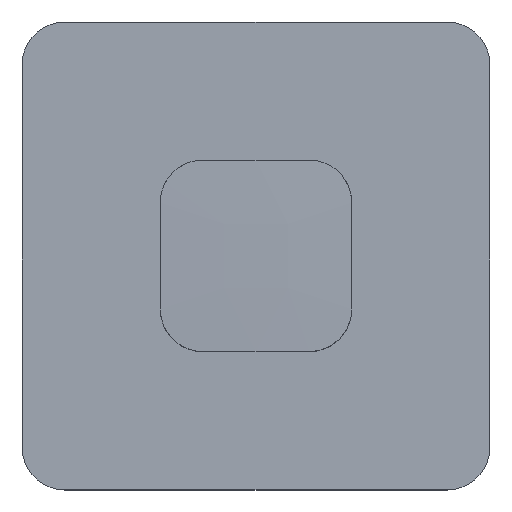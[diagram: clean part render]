
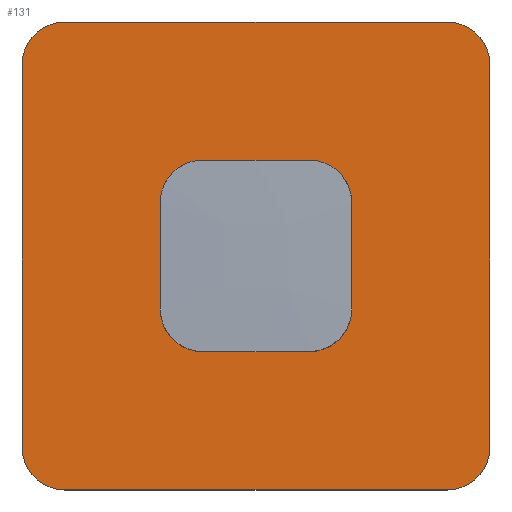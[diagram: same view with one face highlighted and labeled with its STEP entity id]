
A CAD part, top view. The second image highlights one B-rep face of the part: STEP entity #131.
In plain terms, the highlighted planar face has unit normal (0, 0, 1).
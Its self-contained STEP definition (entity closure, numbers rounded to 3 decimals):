
#3 = VERTEX_POINT ( 'NONE', #181 ) ;
#10 = EDGE_CURVE ( 'NONE', #851, #363, #27, .T. ) ;
#16 = EDGE_CURVE ( 'NONE', #749, #446, #501, .T. ) ;
#17 = CARTESIAN_POINT ( 'NONE',  ( -45., -55., 2. ) ) ;
#22 = EDGE_CURVE ( 'NONE', #956, #984, #502, .T. ) ;
#27 = LINE ( 'NONE', #17, #670 ) ;
#29 = DIRECTION ( 'NONE',  ( -1., 0., 0. ) ) ;
#48 = CIRCLE ( 'NONE', #347, 10. ) ;
#51 = VECTOR ( 'NONE', #420, 1000. ) ;
#70 = DIRECTION ( 'NONE',  ( 1., 0., 0. ) ) ;
#80 = ORIENTED_EDGE ( 'NONE', *, *, #792, .F. ) ;
#81 = CARTESIAN_POINT ( 'NONE',  ( 22.5, 12.5, 2. ) ) ;
#97 = CARTESIAN_POINT ( 'NONE',  ( 45., 45., 2. ) ) ;
#98 = VECTOR ( 'NONE', #992, 1000. ) ;
#101 = VERTEX_POINT ( 'NONE', #781 ) ;
#104 = LINE ( 'NONE', #174, #51 ) ;
#108 = CARTESIAN_POINT ( 'NONE',  ( -45., -55., 2. ) ) ;
#111 = CARTESIAN_POINT ( 'NONE',  ( 12.5, 12.5, 2. ) ) ;
#119 = EDGE_CURVE ( 'NONE', #1020, #749, #354, .T. ) ;
#127 = LINE ( 'NONE', #989, #856 ) ;
#131 = ADVANCED_FACE ( 'NONE', ( #202, #524 ), #374, .T. ) ;
#132 = VERTEX_POINT ( 'NONE', #232 ) ;
#137 = VERTEX_POINT ( 'NONE', #221 ) ;
#154 = DIRECTION ( 'NONE',  ( 1., 0., 0. ) ) ;
#165 = DIRECTION ( 'NONE',  ( -1., 0., 0. ) ) ;
#166 = DIRECTION ( 'NONE',  ( 0., 1., 0. ) ) ;
#173 = ORIENTED_EDGE ( 'NONE', *, *, #240, .T. ) ;
#174 = CARTESIAN_POINT ( 'NONE',  ( -22.5, 0., 2. ) ) ;
#181 = CARTESIAN_POINT ( 'NONE',  ( -45., 55., 2. ) ) ;
#189 = DIRECTION ( 'NONE',  ( 0., 0., 1. ) ) ;
#202 = FACE_BOUND ( 'NONE', #952, .T. ) ;
#204 = ORIENTED_EDGE ( 'NONE', *, *, #10, .T. ) ;
#221 = CARTESIAN_POINT ( 'NONE',  ( -22.5, -12.5, 2. ) ) ;
#227 = CIRCLE ( 'NONE', #957, 10. ) ;
#228 = ORIENTED_EDGE ( 'NONE', *, *, #710, .F. ) ;
#229 = CARTESIAN_POINT ( 'NONE',  ( 45., -45., 2. ) ) ;
#232 = CARTESIAN_POINT ( 'NONE',  ( -55., -45., 2. ) ) ;
#239 = DIRECTION ( 'NONE',  ( 1., 0., 0. ) ) ;
#240 = EDGE_CURVE ( 'NONE', #3, #101, #48, .T. ) ;
#242 = ORIENTED_EDGE ( 'NONE', *, *, #513, .F. ) ;
#243 = DIRECTION ( 'NONE',  ( 0., 0., 1. ) ) ;
#250 = DIRECTION ( 'NONE',  ( 0., 0., 1. ) ) ;
#264 = CARTESIAN_POINT ( 'NONE',  ( 45., -55., 2. ) ) ;
#307 = ORIENTED_EDGE ( 'NONE', *, *, #624, .F. ) ;
#309 = DIRECTION ( 'NONE',  ( 0., 0., 1. ) ) ;
#313 = ORIENTED_EDGE ( 'NONE', *, *, #938, .T. ) ;
#315 = CARTESIAN_POINT ( 'NONE',  ( -12.5, -22.5, 2. ) ) ;
#316 = CARTESIAN_POINT ( 'NONE',  ( 55., 45., 2. ) ) ;
#326 = VERTEX_POINT ( 'NONE', #315 ) ;
#345 = DIRECTION ( 'NONE',  ( 0., 0., 1. ) ) ;
#347 = AXIS2_PLACEMENT_3D ( 'NONE', #760, #522, #367 ) ;
#349 = EDGE_CURVE ( 'NONE', #446, #3, #127, .T. ) ;
#350 = DIRECTION ( 'NONE',  ( 0., 0., 1. ) ) ;
#354 = LINE ( 'NONE', #918, #825 ) ;
#359 = AXIS2_PLACEMENT_3D ( 'NONE', #724, #950, #406 ) ;
#363 = VERTEX_POINT ( 'NONE', #264 ) ;
#367 = DIRECTION ( 'NONE',  ( -1., 0., 0. ) ) ;
#374 = PLANE ( 'NONE',  #874 ) ;
#379 = CIRCLE ( 'NONE', #359, 10. ) ;
#401 = AXIS2_PLACEMENT_3D ( 'NONE', #97, #345, #896 ) ;
#406 = DIRECTION ( 'NONE',  ( -1., 0., 0. ) ) ;
#414 = CARTESIAN_POINT ( 'NONE',  ( 12.5, 22.5, 2. ) ) ;
#415 = LINE ( 'NONE', #500, #418 ) ;
#418 = VECTOR ( 'NONE', #687, 1000. ) ;
#420 = DIRECTION ( 'NONE',  ( 0., -1., 0. ) ) ;
#421 = ORIENTED_EDGE ( 'NONE', *, *, #834, .F. ) ;
#425 = DIRECTION ( 'NONE',  ( 1., 0., 0. ) ) ;
#440 = ORIENTED_EDGE ( 'NONE', *, *, #119, .T. ) ;
#446 = VERTEX_POINT ( 'NONE', #1019 ) ;
#454 = CARTESIAN_POINT ( 'NONE',  ( 12.5, -22.5, 2. ) ) ;
#464 = AXIS2_PLACEMENT_3D ( 'NONE', #111, #189, #425 ) ;
#468 = ORIENTED_EDGE ( 'NONE', *, *, #349, .T. ) ;
#476 = VERTEX_POINT ( 'NONE', #999 ) ;
#482 = CARTESIAN_POINT ( 'NONE',  ( 55., -45., 2. ) ) ;
#497 = DIRECTION ( 'NONE',  ( 1., 0., 0. ) ) ;
#500 = CARTESIAN_POINT ( 'NONE',  ( -18.85, -22.5, 2. ) ) ;
#501 = CIRCLE ( 'NONE', #401, 10. ) ;
#502 = LINE ( 'NONE', #827, #995 ) ;
#505 = ORIENTED_EDGE ( 'NONE', *, *, #16, .T. ) ;
#513 = EDGE_CURVE ( 'NONE', #722, #956, #858, .T. ) ;
#522 = DIRECTION ( 'NONE',  ( 0., 0., 1. ) ) ;
#524 = FACE_OUTER_BOUND ( 'NONE', #608, .T. ) ;
#531 = ORIENTED_EDGE ( 'NONE', *, *, #837, .F. ) ;
#564 = ORIENTED_EDGE ( 'NONE', *, *, #1028, .T. ) ;
#587 = LINE ( 'NONE', #594, #970 ) ;
#592 = AXIS2_PLACEMENT_3D ( 'NONE', #814, #309, #154 ) ;
#594 = CARTESIAN_POINT ( 'NONE',  ( -18.85, 22.5, 2. ) ) ;
#606 = DIRECTION ( 'NONE',  ( -1., 0., 0. ) ) ;
#608 = EDGE_LOOP ( 'NONE', ( #937, #204, #564, #440, #505, #468, #173, #313 ) ) ;
#624 = EDGE_CURVE ( 'NONE', #476, #137, #104, .T. ) ;
#652 = DIRECTION ( 'NONE',  ( 0., 0., 1. ) ) ;
#661 = ORIENTED_EDGE ( 'NONE', *, *, #22, .F. ) ;
#670 = VECTOR ( 'NONE', #497, 1000. ) ;
#687 = DIRECTION ( 'NONE',  ( 1., 0., 0. ) ) ;
#707 = LINE ( 'NONE', #770, #98 ) ;
#710 = EDGE_CURVE ( 'NONE', #326, #722, #415, .T. ) ;
#718 = DIRECTION ( 'NONE',  ( 1., 0., 0. ) ) ;
#722 = VERTEX_POINT ( 'NONE', #454 ) ;
#724 = CARTESIAN_POINT ( 'NONE',  ( -12.5, 12.5, 2. ) ) ;
#749 = VERTEX_POINT ( 'NONE', #316 ) ;
#753 = EDGE_CURVE ( 'NONE', #137, #326, #919, .T. ) ;
#756 = CARTESIAN_POINT ( 'NONE',  ( -45., -45., 2. ) ) ;
#760 = CARTESIAN_POINT ( 'NONE',  ( -45., 45., 2. ) ) ;
#770 = CARTESIAN_POINT ( 'NONE',  ( -55., 45., 2. ) ) ;
#781 = CARTESIAN_POINT ( 'NONE',  ( -55., 45., 2. ) ) ;
#788 = CARTESIAN_POINT ( 'NONE',  ( 22.5, -12.5, 2. ) ) ;
#792 = EDGE_CURVE ( 'NONE', #821, #476, #379, .T. ) ;
#814 = CARTESIAN_POINT ( 'NONE',  ( -12.5, -12.5, 2. ) ) ;
#817 = CARTESIAN_POINT ( 'NONE',  ( 12.5, -12.5, 2. ) ) ;
#820 = EDGE_CURVE ( 'NONE', #132, #851, #227, .T. ) ;
#821 = VERTEX_POINT ( 'NONE', #958 ) ;
#825 = VECTOR ( 'NONE', #988, 1000. ) ;
#827 = CARTESIAN_POINT ( 'NONE',  ( 22.5, 0., 2. ) ) ;
#834 = EDGE_CURVE ( 'NONE', #836, #821, #587, .T. ) ;
#836 = VERTEX_POINT ( 'NONE', #414 ) ;
#837 = EDGE_CURVE ( 'NONE', #984, #836, #987, .T. ) ;
#851 = VERTEX_POINT ( 'NONE', #108 ) ;
#856 = VECTOR ( 'NONE', #606, 1000. ) ;
#857 = ORIENTED_EDGE ( 'NONE', *, *, #753, .F. ) ;
#858 = CIRCLE ( 'NONE', #962, 10. ) ;
#869 = CIRCLE ( 'NONE', #910, 10. ) ;
#874 = AXIS2_PLACEMENT_3D ( 'NONE', #756, #350, #70 ) ;
#896 = DIRECTION ( 'NONE',  ( 1., 0., 0. ) ) ;
#910 = AXIS2_PLACEMENT_3D ( 'NONE', #229, #243, #718 ) ;
#918 = CARTESIAN_POINT ( 'NONE',  ( 55., -45., 2. ) ) ;
#919 = CIRCLE ( 'NONE', #592, 10. ) ;
#937 = ORIENTED_EDGE ( 'NONE', *, *, #820, .T. ) ;
#938 = EDGE_CURVE ( 'NONE', #101, #132, #707, .T. ) ;
#950 = DIRECTION ( 'NONE',  ( 0., 0., 1. ) ) ;
#952 = EDGE_LOOP ( 'NONE', ( #531, #661, #242, #228, #857, #307, #80, #421 ) ) ;
#956 = VERTEX_POINT ( 'NONE', #788 ) ;
#957 = AXIS2_PLACEMENT_3D ( 'NONE', #1017, #652, #239 ) ;
#958 = CARTESIAN_POINT ( 'NONE',  ( -12.5, 22.5, 2. ) ) ;
#962 = AXIS2_PLACEMENT_3D ( 'NONE', #817, #250, #165 ) ;
#970 = VECTOR ( 'NONE', #29, 1000. ) ;
#984 = VERTEX_POINT ( 'NONE', #81 ) ;
#987 = CIRCLE ( 'NONE', #464, 10. ) ;
#988 = DIRECTION ( 'NONE',  ( 0., 1., 0. ) ) ;
#989 = CARTESIAN_POINT ( 'NONE',  ( 45., 55., 2. ) ) ;
#992 = DIRECTION ( 'NONE',  ( 0., -1., 0. ) ) ;
#995 = VECTOR ( 'NONE', #166, 1000. ) ;
#999 = CARTESIAN_POINT ( 'NONE',  ( -22.5, 12.5, 2. ) ) ;
#1017 = CARTESIAN_POINT ( 'NONE',  ( -45., -45., 2. ) ) ;
#1019 = CARTESIAN_POINT ( 'NONE',  ( 45., 55., 2. ) ) ;
#1020 = VERTEX_POINT ( 'NONE', #482 ) ;
#1028 = EDGE_CURVE ( 'NONE', #363, #1020, #869, .T. ) ;
